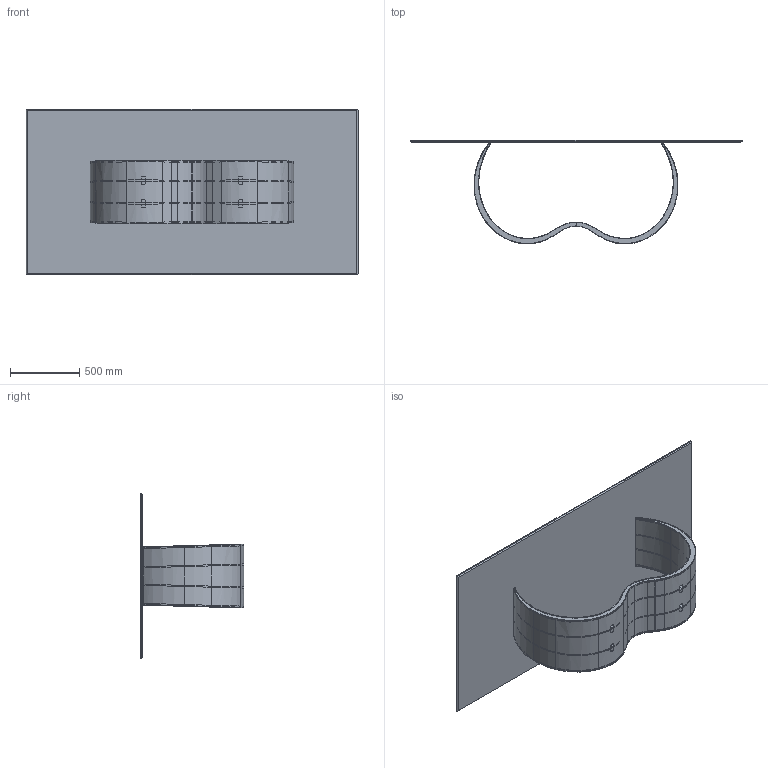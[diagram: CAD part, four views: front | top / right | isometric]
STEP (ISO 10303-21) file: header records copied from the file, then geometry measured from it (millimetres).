
FILE_DESCRIPTION (( 'STEP AP203' ), '1' );
FILE_NAME ('AI22C_Alisei_239x119_Ceramic Rectangular.STEP', '2024-07-31T12:48:48', ( '' ), ( '' ), 'SwSTEP 2.0', 'SolidWorks 2022', '' );
FILE_SCHEMA (( 'CONFIG_CONTROL_DESIGN' ));
Length unit declared in the file: millimetre
Products named in the file (13): ALI000000-00-ALISEI BASE METALLO L240 GREZZO; GOMMINO PVC; ALI000000_02-00-LAMIERA CALANDRATA INTERNA; AI22C_Alisei_239x119_Ceramic Rectangular; ALI000000_04-00-MEZZA COSTOLA INTERNA_SpecchiaturaDefault; K2XCMXX-00-Piani Rettangolari in ceramica_2390 x 1190; ALI000000_03-00-MEZZA COSTOLA ESTERNA; ALI000001_05-00-APPOGGIO PIANO; ALI000000_03-00-MEZZA COSTOLA ESTERNA_SpecchiaturaDefault; ALI000000_04-00-MEZZA COSTOLA INTERNA_SpecchiaturaSpecchiaturaDefault; ALI000000_03-00-MEZZA COSTOLA ESTERNA_SpecchiaturaSpecchiaturaDefault; ALI000000_01-00-LAMIERA CALANDRATA ESTERNA; ALI000000_04-00-MEZZA COSTOLA INTERNA
Assembly tree (18 placements, depth 3):
  AI22C_Alisei_239x119_Ceramic Rectangular
    ALI000000-00-ALISEI BASE METALLO L240 GREZZO
      ALI000000_01-00-LAMIERA CALANDRATA ESTERNA
      ALI000000_02-00-LAMIERA CALANDRATA INTERNA
      ALI000000_03-00-MEZZA COSTOLA ESTERNA
      ALI000000_04-00-MEZZA COSTOLA INTERNA
      ALI000000_03-00-MEZZA COSTOLA ESTERNA_SpecchiaturaDefault  x2
      ALI000000_04-00-MEZZA COSTOLA INTERNA_SpecchiaturaDefault  x2
      ALI000000_03-00-MEZZA COSTOLA ESTERNA_SpecchiaturaSpecchiaturaDefault
      ALI000000_04-00-MEZZA COSTOLA INTERNA_SpecchiaturaSpecchiaturaDefault
      ALI000001_05-00-APPOGGIO PIANO  x2
    GOMMINO PVC  x4
    K2XCMXX-00-Piani Rettangolari in ceramica_2390 x 1190
Bounding box: 2390 x 747 x 1190 mm (x, y, z)
Volume: 52490176.8 mm3; surface area: 16962513.8 mm2
Topology: 18 solids, 18 shells, 1052 faces, 2912 edges, 1888 vertices
Faces by surface type: bspline 552, plane 336, cylinder 148, torus 16
Entity records: 40116 total; most frequent: CARTESIAN_POINT 20812, ORIENTED_EDGE 5006, EDGE_CURVE 2503, DIRECTION 2215, VERTEX_POINT 1622, VECTOR 1157, LINE 1157, EDGE_LOOP 983
